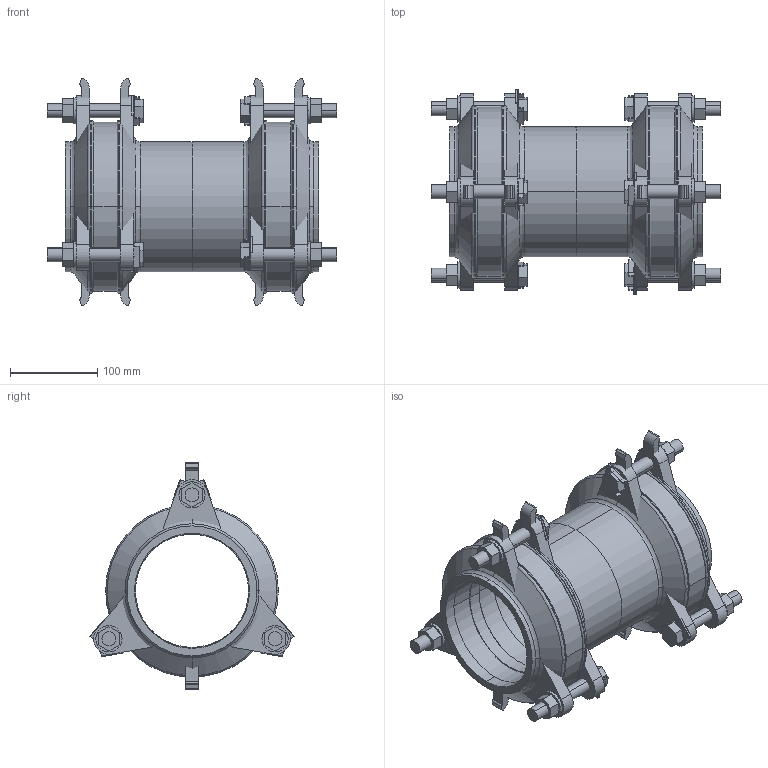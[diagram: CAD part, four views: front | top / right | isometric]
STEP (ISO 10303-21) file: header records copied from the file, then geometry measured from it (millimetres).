
FILE_DESCRIPTION(('STEP AP214'),'1');
FILE_NAME('MJ000044 DN 100.STP','2015-02-06T12:03:36',(' '),(' '),'Spatial InterOp 3D',' ',' ');
FILE_SCHEMA(('automotive_design'));
Length unit declared in the file: millimetre
Products named in the file (66): 3D-Objekt
Bounding box: 332 x 235 x 260 mm (x, y, z)
Volume: 2881029.6 mm3; surface area: 770357.9 mm2
Topology: 66 solids, 66 shells, 526 faces, 1178 edges, 784 vertices
Faces by surface type: plane 352, cylinder 134, torus 24, cone 16
Entity records: 20426 total; most frequent: DIRECTION 2730, CARTESIAN_POINT 2554, ORIENTED_EDGE 2356, EDGE_CURVE 1178, AXIS2_PLACEMENT_3D 960, LINE 810, VECTOR 810, VERTEX_POINT 784
